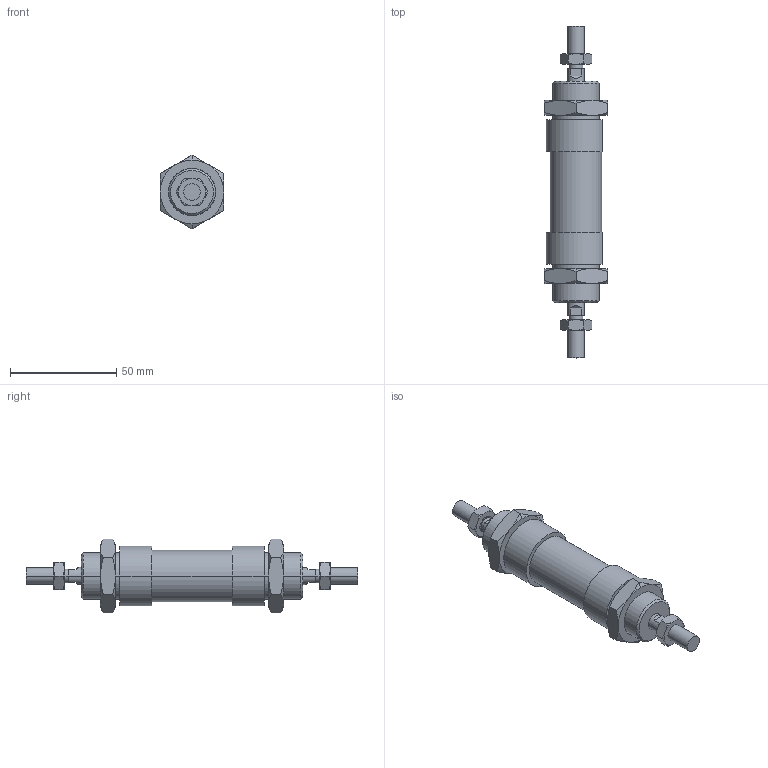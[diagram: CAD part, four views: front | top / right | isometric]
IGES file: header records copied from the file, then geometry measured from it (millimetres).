
Global section: file name: No Iges File Name specified; native system: AutoDesk Inventor R6.0; preprocessor: AutoDesk Inventor Iges Exporter R6.0; author: No Author specified; organization: No Organization specified; date: 20030403.072241; units: millimetre
Bounding box: 30 x 156 x 34.64 mm (x, y, z)
Volume: 57419.4 mm3; surface area: 21184.2 mm2
Topology: 6 solids, 6 shells, 186 faces, 414 edges, 244 vertices
Faces by surface type: cone 68, plane 60, bspline 32, cylinder 20, revolution 6
